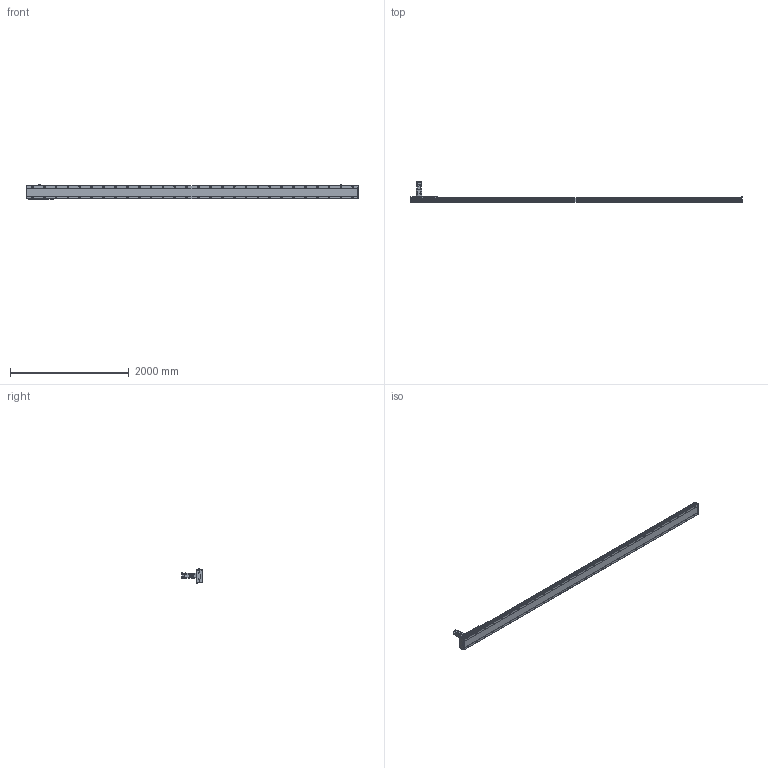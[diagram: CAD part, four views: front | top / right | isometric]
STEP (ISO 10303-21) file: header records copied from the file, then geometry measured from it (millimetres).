
FILE_DESCRIPTION(/* description */ ('STEP AP214'),/* implementation_level */ '2;1');
FILE_NAME(/* name */ 'SHS22A-L13-S5100-BC-T75-C1-N(0)',/* time_stamp */ '2022-06-15T02:29:16+02:00',/* author */ ('License CC BY-ND 4.0'),/* organization */ ('CADENAS'),/* preprocessor_version */ 'ST-DEVELOPER v18.102',/* originating_system */ 'PARTsolutions',/* authorisation */ ' ');
FILE_SCHEMA (('AUTOMOTIVE_DESIGN {1 0 10303 214 3 1 1}'));
Length unit declared in the file: millimetre
Products named in the file (7): SHS22A-L13-S5100-BC-T75-C1-N(0); PSC140-sensor; SHS22A-S5100_body2; T75-p1; SHS22A-S5100_body3; SHS22A-S5100_slider; SHS22A-L13-S5100-BC-T75-C1(0)_body
Assembly tree (13 placements, depth 2):
  SHS22A-L13-S5100-BC-T75-C1-N(0)
    PSC140-sensor  x3
    SHS22A-S5100_body2  x6
    T75-p1
    SHS22A-S5100_body3
    SHS22A-S5100_slider
    SHS22A-L13-S5100-BC-T75-C1(0)_body
Bounding box: 5594 x 350.8 x 238.4 mm (x, y, z)
Volume: 58871382.8 mm3; surface area: 5973525.1 mm2
Topology: 13 solids, 13 shells, 2037 faces, 5199 edges, 3400 vertices
Faces by surface type: plane 1392, cylinder 515, cone 121, torus 9
Full cylindrical faces by diameter (mm): 2.8 x3, 4.2 x2, 4.6 x3, 4.917 x4, 5 x4, 5.6 x24, 6 x31, 6.6 x24, 6.647 x8, 6.8 x9, 7.75 x6, 8 x3, 8.376 x56, 8.5 x56, 10 x4, 11 x4, 12 x24, 14 x56, 22 x1, 24.1 x1, 28 x1, 28.2 x1, 28.8 x1, 48.542 x1, 68 x1, 70 x1, 78 x1, 80 x2
Entity records: 35338 total; most frequent: CARTESIAN_POINT 6461, DIRECTION 5999, ORIENTED_EDGE 5268, EDGE_CURVE 2634, AXIS2_PLACEMENT_3D 2200, FACE_BOUND 1968, EDGE_LOOP 1967, VERTEX_POINT 1934
